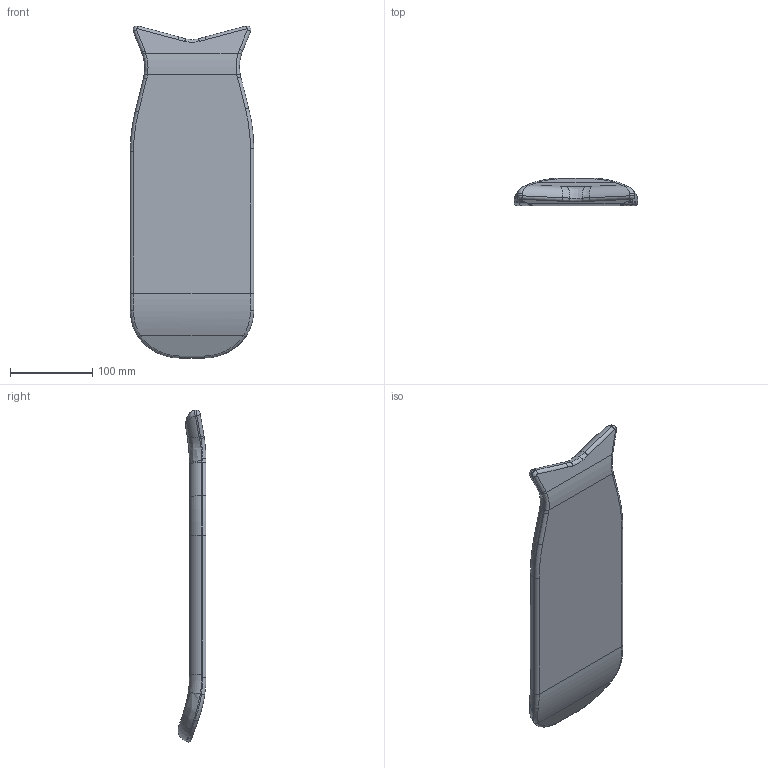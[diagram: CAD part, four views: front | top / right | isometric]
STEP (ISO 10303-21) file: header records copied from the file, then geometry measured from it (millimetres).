
FILE_DESCRIPTION(/* description */ (''),/* implementation_level */ '2;1');
FILE_NAME(/* name */ 'G:/Mi unidad/LEIRE FACULTAD/FABACADEMY/w16/w16_skateboard v1.step',/* time_stamp */ '2018-06-12T09:13:53+02:00',/* author */ ('leire.bereziartua'),/* organization */ (''),/* preprocessor_version */ 'ST-DEVELOPER v17',/* originating_system */ 'Autodesk Translation Framework v7.1.0.215',/* authorisation */ '');
FILE_SCHEMA (('AUTOMOTIVE_DESIGN { 1 0 10303 214 3 1 1 }'));
Length unit declared in the file: millimetre
Products named in the file (1): w16_skateboard
Bounding box: 150 x 33.97 x 403.24 mm (x, y, z)
Volume: 1053312.8 mm3; surface area: 122899.4 mm2
Topology: 1 solids, 1 shells, 82 faces, 188 edges, 106 vertices
Faces by surface type: cylinder 28, bspline 24, torus 16, plane 14
Entity records: 3086 total; most frequent: CARTESIAN_POINT 1290, ORIENTED_EDGE 372, DIRECTION 369, EDGE_CURVE 186, AXIS2_PLACEMENT_3D 157, VERTEX_POINT 106, CIRCLE 84, FACE_OUTER_BOUND 82
